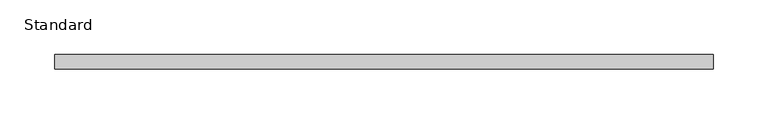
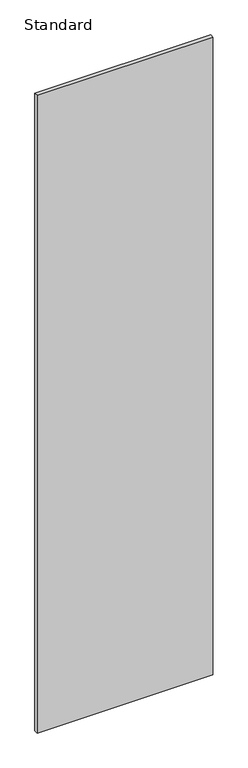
"""IFC4 building model written with IfcOpenShell, lengths in millimetres: furniture geometry, X_Partition-Compact Laminate-Duracube-Door : Standard."""

from ifc_helpers import new_model, si_unit, frame, origin, place, context, project, spatial, polyline, outline, extrude, source, transform, mapped, element, save


def standard_103004a1(model_context):
    return source(origin(), model_context, "Body", "SweptSolid", [
        extrude(outline(polyline([(344.7003264, 0.0), (344.7003264, -13.0), (-255.2996736, -13.0), (-255.2996736, 0.0), (344.7003264, 0.0)])), frame((0.0, 0.0, 20.0), z_axis=(0.0, 0.0, 1.0), x_axis=(1.0, 0.0, 0.0)), (0.0, 0.0, 1.0), 2304.0),
    ])


if __name__ == "__main__":
    model = new_model("IFC4")
    model_context = context("Model", 3, world=origin())
    ifc_project = project(units=[si_unit("LENGTHUNIT", "METRE", prefix="MILLI")], contexts=[model_context])
    site = spatial("IfcSite", under=ifc_project)
    building = spatial("IfcBuilding", under=site)
    placement = place(None, origin())
    standard_shape = standard_103004a1(model_context)
    element("IfcFurniture", 1, ObjectType="X_Partition-Compact Laminate-Duracube-Door : Standard", at=placement, inside=building, context=model_context, shape_type="MappedRepresentation", body=[
        mapped(standard_shape, transform((0.0, 0.0, 0.0), x_axis=(1.0, 0.0, 0.0), y_axis=(0.0, 1.0, 0.0), z_axis=(0.0, 0.0, 1.0))),
    ])
    save(model, "model.ifc")
